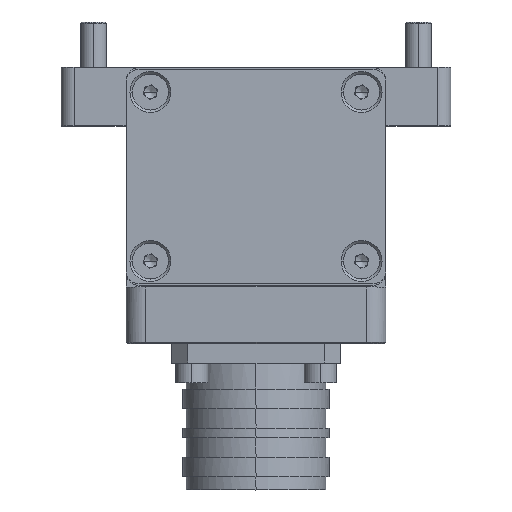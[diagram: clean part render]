
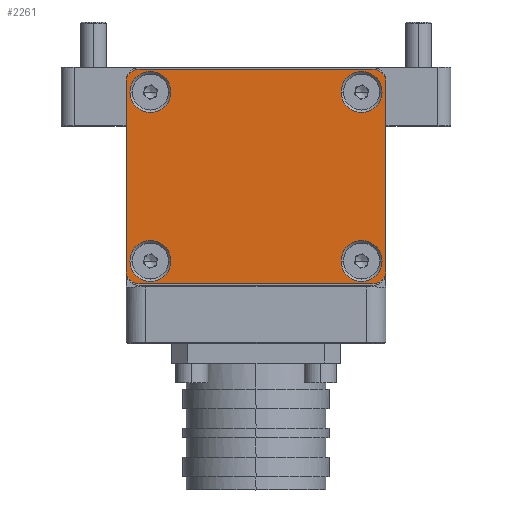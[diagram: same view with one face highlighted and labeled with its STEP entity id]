
A CAD part, top view. The second image highlights one B-rep face of the part: STEP entity #2261.
In plain terms, the highlighted planar face has unit normal (0, 0, 1).
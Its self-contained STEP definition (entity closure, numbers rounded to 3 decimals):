
#514 = DIRECTION ( 'NONE',  ( 0., 0., -1. ) ) ;
#602 = VERTEX_POINT ( 'NONE', #21512 ) ;
#1469 = CARTESIAN_POINT ( 'NONE',  ( -65.723, 21.4, 16.9 ) ) ;
#2133 = VERTEX_POINT ( 'NONE', #6682 ) ;
#2261 = ADVANCED_FACE ( 'NONE', ( #20046, #28930, #21901, #35956, #27976 ), #11658, .T. ) ;
#2270 = CARTESIAN_POINT ( 'NONE',  ( -32.623, -6.1, 16.9 ) ) ;
#2624 = ORIENTED_EDGE ( 'NONE', *, *, #38522, .T. ) ;
#3237 = AXIS2_PLACEMENT_3D ( 'NONE', #16546, #37423, #19515 ) ;
#3461 = DIRECTION ( 'NONE',  ( -1., 0., 0. ) ) ;
#3535 = EDGE_CURVE ( 'NONE', #37789, #9374, #10313, .T. ) ;
#3602 = ORIENTED_EDGE ( 'NONE', *, *, #6600, .T. ) ;
#4252 = LINE ( 'NONE', #29508, #18141 ) ;
#4368 = CARTESIAN_POINT ( 'NONE',  ( -65.723, 6.9, 16.9 ) ) ;
#4519 = CARTESIAN_POINT ( 'NONE',  ( -63.723, -9.6, 16.9 ) ) ;
#4731 = ORIENTED_EDGE ( 'NONE', *, *, #29793, .T. ) ;
#5006 = LINE ( 'NONE', #4368, #25847 ) ;
#5029 = CARTESIAN_POINT ( 'NONE',  ( -25.723, -7.6, 16.9 ) ) ;
#5042 = VERTEX_POINT ( 'NONE', #6488 ) ;
#5179 = AXIS2_PLACEMENT_3D ( 'NONE', #8813, #29591, #11761 ) ;
#5574 = EDGE_CURVE ( 'NONE', #2133, #38401, #5614, .T. ) ;
#5614 = CIRCLE ( 'NONE', #27709, 3.15 ) ;
#5846 = CARTESIAN_POINT ( 'NONE',  ( -65.123, -6.1, 16.9 ) ) ;
#6310 = CARTESIAN_POINT ( 'NONE',  ( -63.723, -7.6, 16.9 ) ) ;
#6488 = CARTESIAN_POINT ( 'NONE',  ( -26.323, -6.1, 16.9 ) ) ;
#6600 = EDGE_CURVE ( 'NONE', #9374, #27783, #33441, .T. ) ;
#6682 = CARTESIAN_POINT ( 'NONE',  ( -58.823, -6.1, 16.9 ) ) ;
#6856 = LINE ( 'NONE', #9415, #20707 ) ;
#7616 = ORIENTED_EDGE ( 'NONE', *, *, #36650, .T. ) ;
#7645 = CIRCLE ( 'NONE', #3237, 3.15 ) ;
#8303 = CIRCLE ( 'NONE', #28233, 3.15 ) ;
#8703 = DIRECTION ( 'NONE',  ( 1., 0., 0. ) ) ;
#8779 = CARTESIAN_POINT ( 'NONE',  ( -45.723, -9.6, 16.9 ) ) ;
#8813 = CARTESIAN_POINT ( 'NONE',  ( -63.723, 21.4, 16.9 ) ) ;
#9279 = DIRECTION ( 'NONE',  ( -1., 0., 0. ) ) ;
#9367 = CARTESIAN_POINT ( 'NONE',  ( -61.973, 19.9, 16.9 ) ) ;
#9374 = VERTEX_POINT ( 'NONE', #23910 ) ;
#9415 = CARTESIAN_POINT ( 'NONE',  ( -45.723, 23.4, 16.9 ) ) ;
#9416 = EDGE_CURVE ( 'NONE', #602, #38263, #6856, .T. ) ;
#9519 = CARTESIAN_POINT ( 'NONE',  ( -27.723, 21.4, 16.9 ) ) ;
#9551 = EDGE_CURVE ( 'NONE', #29205, #20369, #5006, .T. ) ;
#10313 = LINE ( 'NONE', #8779, #26102 ) ;
#10564 = VERTEX_POINT ( 'NONE', #12749 ) ;
#11437 = CARTESIAN_POINT ( 'NONE',  ( -29.473, -6.1, 16.9 ) ) ;
#11658 = PLANE ( 'NONE',  #25654 ) ;
#11761 = DIRECTION ( 'NONE',  ( 1., 0., 0. ) ) ;
#11770 = DIRECTION ( 'NONE',  ( 0., 0., 1. ) ) ;
#12013 = ORIENTED_EDGE ( 'NONE', *, *, #22968, .T. ) ;
#12118 = EDGE_CURVE ( 'NONE', #38401, #2133, #19978, .T. ) ;
#12182 = EDGE_CURVE ( 'NONE', #35718, #27783, #4252, .T. ) ;
#12193 = CARTESIAN_POINT ( 'NONE',  ( -29.473, -6.1, 16.9 ) ) ;
#12311 = DIRECTION ( 'NONE',  ( 1., 0., 0. ) ) ;
#12472 = DIRECTION ( 'NONE',  ( 0., 1., 0. ) ) ;
#12587 = CARTESIAN_POINT ( 'NONE',  ( -25.723, -9.6, 16.9 ) ) ;
#12691 = DIRECTION ( 'NONE',  ( 0., 0., 1. ) ) ;
#12749 = CARTESIAN_POINT ( 'NONE',  ( -26.323, 19.9, 16.9 ) ) ;
#12769 = DIRECTION ( 'NONE',  ( 0., 1., 0. ) ) ;
#12809 = ORIENTED_EDGE ( 'NONE', *, *, #18895, .T. ) ;
#13931 = ORIENTED_EDGE ( 'NONE', *, *, #9551, .F. ) ;
#14418 = DIRECTION ( 'NONE',  ( 1., 0., 0. ) ) ;
#14867 = CIRCLE ( 'NONE', #20088, 3.15 ) ;
#15192 = DIRECTION ( 'NONE',  ( 1., 0., 0. ) ) ;
#16546 = CARTESIAN_POINT ( 'NONE',  ( -29.473, 19.9, 16.9 ) ) ;
#16588 = DIRECTION ( 'NONE',  ( 0., 0., -1. ) ) ;
#17160 = DIRECTION ( 'NONE',  ( 0., 0., -1. ) ) ;
#17246 = ORIENTED_EDGE ( 'NONE', *, *, #3535, .T. ) ;
#17609 = EDGE_CURVE ( 'NONE', #29205, #37789, #27735, .T. ) ;
#17873 = VERTEX_POINT ( 'NONE', #36998 ) ;
#18141 = VECTOR ( 'NONE', #32486, 1000. ) ;
#18261 = CARTESIAN_POINT ( 'NONE',  ( -61.973, 19.9, 16.9 ) ) ;
#18677 = EDGE_LOOP ( 'NONE', ( #20252, #7616, #33970, #30813, #13931, #26641, #17246, #3602 ) ) ;
#18870 = AXIS2_PLACEMENT_3D ( 'NONE', #35018, #17160, #38030 ) ;
#18895 = EDGE_CURVE ( 'NONE', #34923, #5042, #23432, .T. ) ;
#19180 = CARTESIAN_POINT ( 'NONE',  ( -58.823, 19.9, 16.9 ) ) ;
#19515 = DIRECTION ( 'NONE',  ( 1., 0., 0. ) ) ;
#19978 = CIRCLE ( 'NONE', #18870, 3.15 ) ;
#20046 = FACE_OUTER_BOUND ( 'NONE', #18677, .T. ) ;
#20088 = AXIS2_PLACEMENT_3D ( 'NONE', #9367, #30151, #12311 ) ;
#20252 = ORIENTED_EDGE ( 'NONE', *, *, #12182, .F. ) ;
#20369 = VERTEX_POINT ( 'NONE', #1469 ) ;
#20547 = ORIENTED_EDGE ( 'NONE', *, *, #5574, .T. ) ;
#20707 = VECTOR ( 'NONE', #3461, 1000. ) ;
#21209 = DIRECTION ( 'NONE',  ( 1., 0., 0. ) ) ;
#21512 = CARTESIAN_POINT ( 'NONE',  ( -27.723, 23.4, 16.9 ) ) ;
#21513 = EDGE_LOOP ( 'NONE', ( #20547, #33471 ) ) ;
#21723 = CARTESIAN_POINT ( 'NONE',  ( -25.723, 21.4, 16.9 ) ) ;
#21901 = FACE_BOUND ( 'NONE', #29860, .T. ) ;
#22153 = CARTESIAN_POINT ( 'NONE',  ( -61.973, -6.1, 16.9 ) ) ;
#22968 = EDGE_CURVE ( 'NONE', #5042, #34923, #8303, .T. ) ;
#23181 = DIRECTION ( 'NONE',  ( 0., 0., -1. ) ) ;
#23302 = EDGE_LOOP ( 'NONE', ( #32400, #2624 ) ) ;
#23432 = CIRCLE ( 'NONE', #27479, 3.15 ) ;
#23698 = DIRECTION ( 'NONE',  ( 1., 0., 0. ) ) ;
#23910 = CARTESIAN_POINT ( 'NONE',  ( -27.723, -9.6, 16.9 ) ) ;
#24434 = ORIENTED_EDGE ( 'NONE', *, *, #27674, .T. ) ;
#24768 = EDGE_CURVE ( 'NONE', #38263, #20369, #27731, .T. ) ;
#25653 = EDGE_LOOP ( 'NONE', ( #12013, #12809 ) ) ;
#25654 = AXIS2_PLACEMENT_3D ( 'NONE', #12587, #12691, #12769 ) ;
#25847 = VECTOR ( 'NONE', #28099, 1000. ) ;
#26102 = VECTOR ( 'NONE', #8703, 1000. ) ;
#26641 = ORIENTED_EDGE ( 'NONE', *, *, #17609, .T. ) ;
#26813 = CIRCLE ( 'NONE', #34681, 2. ) ;
#27054 = DIRECTION ( 'NONE',  ( 0., 0., 1. ) ) ;
#27479 = AXIS2_PLACEMENT_3D ( 'NONE', #12193, #33002, #15192 ) ;
#27674 = EDGE_CURVE ( 'NONE', #17873, #10564, #7645, .T. ) ;
#27709 = AXIS2_PLACEMENT_3D ( 'NONE', #22153, #23181, #23698 ) ;
#27731 = CIRCLE ( 'NONE', #5179, 2. ) ;
#27735 = CIRCLE ( 'NONE', #35749, 2. ) ;
#27783 = VERTEX_POINT ( 'NONE', #5029 ) ;
#27976 = FACE_BOUND ( 'NONE', #21513, .T. ) ;
#28099 = DIRECTION ( 'NONE',  ( 0., 1., 0. ) ) ;
#28233 = AXIS2_PLACEMENT_3D ( 'NONE', #11437, #32241, #14418 ) ;
#28930 = FACE_BOUND ( 'NONE', #23302, .T. ) ;
#29075 = CIRCLE ( 'NONE', #33672, 3.15 ) ;
#29205 = VERTEX_POINT ( 'NONE', #37387 ) ;
#29508 = CARTESIAN_POINT ( 'NONE',  ( -25.723, 6.9, 16.9 ) ) ;
#29591 = DIRECTION ( 'NONE',  ( 0., 0., 1. ) ) ;
#29600 = CARTESIAN_POINT ( 'NONE',  ( -27.723, -7.6, 16.9 ) ) ;
#29742 = VERTEX_POINT ( 'NONE', #19180 ) ;
#29793 = EDGE_CURVE ( 'NONE', #10564, #17873, #36461, .T. ) ;
#29860 = EDGE_LOOP ( 'NONE', ( #4731, #24434 ) ) ;
#30151 = DIRECTION ( 'NONE',  ( 0., 0., -1. ) ) ;
#30304 = DIRECTION ( 'NONE',  ( 0., 0., 1. ) ) ;
#30813 = ORIENTED_EDGE ( 'NONE', *, *, #24768, .T. ) ;
#32241 = DIRECTION ( 'NONE',  ( 0., 0., -1. ) ) ;
#32400 = ORIENTED_EDGE ( 'NONE', *, *, #32565, .T. ) ;
#32486 = DIRECTION ( 'NONE',  ( 0., -1., 0. ) ) ;
#32565 = EDGE_CURVE ( 'NONE', #29742, #36490, #14867, .T. ) ;
#32580 = DIRECTION ( 'NONE',  ( 1., 0., 0. ) ) ;
#33002 = DIRECTION ( 'NONE',  ( 0., 0., -1. ) ) ;
#33441 = CIRCLE ( 'NONE', #34244, 2. ) ;
#33471 = ORIENTED_EDGE ( 'NONE', *, *, #12118, .T. ) ;
#33672 = AXIS2_PLACEMENT_3D ( 'NONE', #18261, #514, #21209 ) ;
#33970 = ORIENTED_EDGE ( 'NONE', *, *, #9416, .T. ) ;
#34080 = CARTESIAN_POINT ( 'NONE',  ( -63.723, 23.4, 16.9 ) ) ;
#34244 = AXIS2_PLACEMENT_3D ( 'NONE', #29600, #11770, #32580 ) ;
#34450 = CARTESIAN_POINT ( 'NONE',  ( -29.473, 19.9, 16.9 ) ) ;
#34681 = AXIS2_PLACEMENT_3D ( 'NONE', #9519, #30304, #12472 ) ;
#34923 = VERTEX_POINT ( 'NONE', #2270 ) ;
#35018 = CARTESIAN_POINT ( 'NONE',  ( -61.973, -6.1, 16.9 ) ) ;
#35718 = VERTEX_POINT ( 'NONE', #21723 ) ;
#35749 = AXIS2_PLACEMENT_3D ( 'NONE', #6310, #27054, #9279 ) ;
#35956 = FACE_BOUND ( 'NONE', #25653, .T. ) ;
#36461 = CIRCLE ( 'NONE', #37429, 3.15 ) ;
#36490 = VERTEX_POINT ( 'NONE', #37418 ) ;
#36650 = EDGE_CURVE ( 'NONE', #35718, #602, #26813, .T. ) ;
#36998 = CARTESIAN_POINT ( 'NONE',  ( -32.623, 19.9, 16.9 ) ) ;
#37387 = CARTESIAN_POINT ( 'NONE',  ( -65.723, -7.6, 16.9 ) ) ;
#37418 = CARTESIAN_POINT ( 'NONE',  ( -65.123, 19.9, 16.9 ) ) ;
#37423 = DIRECTION ( 'NONE',  ( 0., 0., -1. ) ) ;
#37429 = AXIS2_PLACEMENT_3D ( 'NONE', #34450, #16588, #37466 ) ;
#37466 = DIRECTION ( 'NONE',  ( 1., 0., 0. ) ) ;
#37789 = VERTEX_POINT ( 'NONE', #4519 ) ;
#38030 = DIRECTION ( 'NONE',  ( 1., 0., 0. ) ) ;
#38263 = VERTEX_POINT ( 'NONE', #34080 ) ;
#38401 = VERTEX_POINT ( 'NONE', #5846 ) ;
#38522 = EDGE_CURVE ( 'NONE', #36490, #29742, #29075, .T. ) ;
